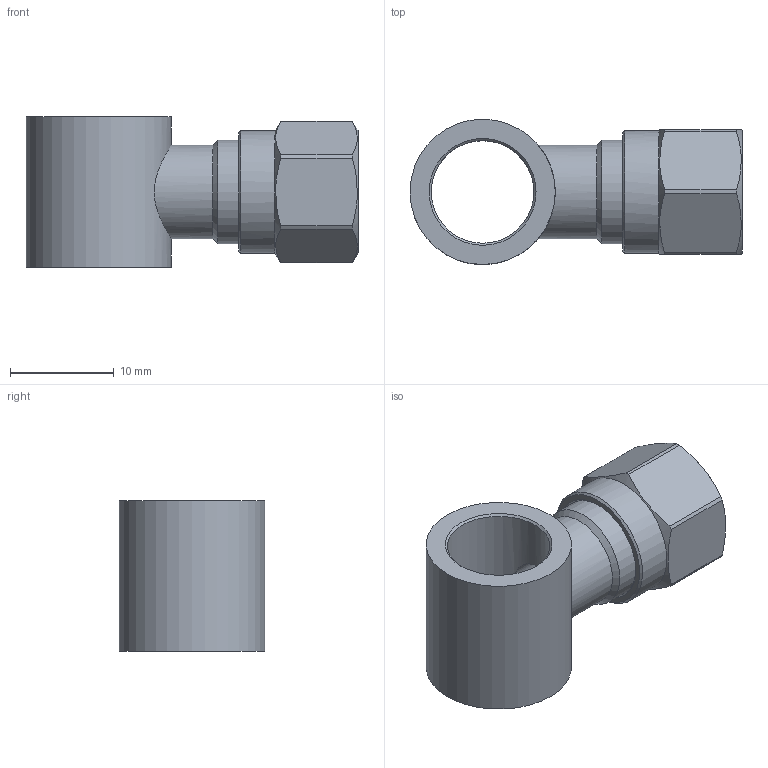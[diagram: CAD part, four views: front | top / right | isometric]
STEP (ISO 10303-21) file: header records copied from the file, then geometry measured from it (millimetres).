
FILE_DESCRIPTION(('Bauteilbeschreibung','HiCAD-Model','HiCAD-STEP-TRANSLATION','Bauteilbeschreibung'),'2;1');
FILE_NAME('B:/ABGLEICH/ZEICHNUNGEN/STEP FÜR INTERNET/STEP/216/95102_216_6_1-8.STP','2011-11-28T09:18:21+00:00',('Konstrukteur'),('Konstrukteur Firma GmbH'),' HiCAD neXt 2008, Step 3.1.1401.2J ','HiCAD neXt 2008','confidential');
FILE_SCHEMA(('AUTOMOTIVE_DESIGN { 1 2 10303 214 0 1 1 1 }'));
Length unit declared in the file: millimetre
Products named in the file (7): A5102_216_6_1_8; A5102; A51020; DIN 13_M10X1; A6802; A68020; DIN0130M10X1
Assembly tree (6 placements, depth 3):
  A5102_216_6_1_8
    A5102
    A51020
      DIN 13_M10X1
    A6802
    A68020
      DIN0130M10X1
Bounding box: 32 x 14 x 14.5 mm (x, y, z)
Volume: 2335.3 mm3; surface area: 3442.1 mm2
Topology: 4 solids, 4 shells, 49 faces, 115 edges, 75 vertices
Faces by surface type: cylinder 20, plane 16, cone 13
Full cylindrical faces by diameter (mm): 4.5 x1, 6 x2, 8.773 x4, 9 x1, 9.9 x1, 10 x3, 11.8 x1, 14 x1
Entity records: 3009 total; most frequent: CARTESIAN_POINT 1537, DIRECTION 228, ORIENTED_EDGE 146, AXIS2_PLACEMENT_3D 108, EDGE_LOOP 88, COLOUR_RGB 75, PRESENTATION_STYLE_ASSIGNMENT 75, EDGE_CURVE 73
